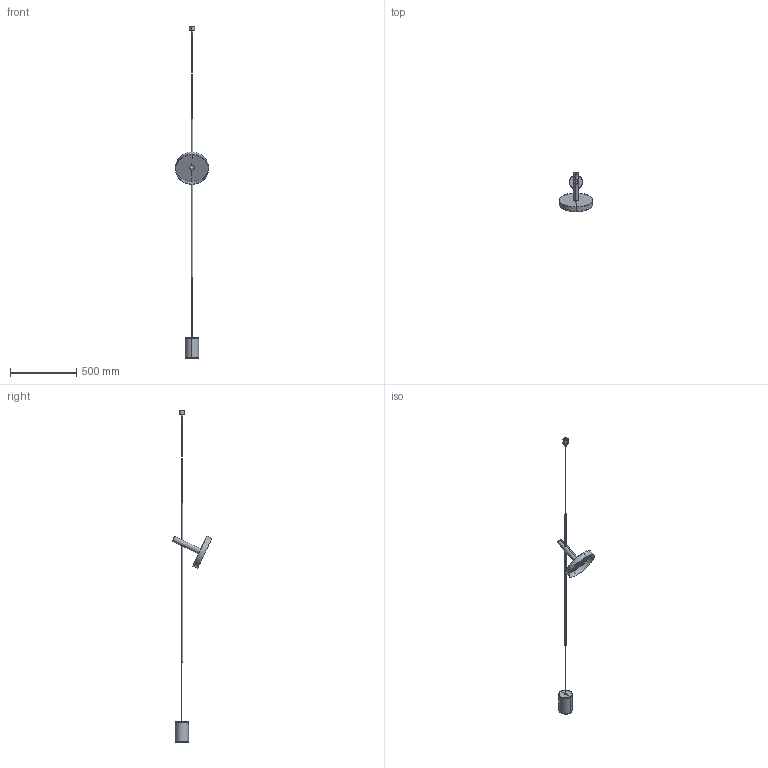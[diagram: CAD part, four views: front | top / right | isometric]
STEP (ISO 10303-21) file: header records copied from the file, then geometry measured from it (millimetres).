
FILE_DESCRIPTION(/* description */ (''),/* implementation_level */ '2;1');
FILE_NAME(/* name */ 'C:\Users\Franco Sartori E\Documents\FARO\DUPLICADO\Modelos\01_Digitalizados\0_WHIZZ\03_Publicación\20166_20163.stp',/* time_stamp */ '2020-10-02T13:39:39+02:00',/* author */ ('Franco Sartori E'),/* organization */ (''),/* preprocessor_version */ 'ST-DEVELOPER v18.1',/* originating_system */ 'AutoCAD Mechanical',/* authorisation */ '');
FILE_SCHEMA (('AUTOMOTIVE_DESIGN { 1 0 10303 214 3 1 1 }'));
Length unit declared in the file: millimetre
Products named in the file (5): Product; 20166_BASE - base-429917-_3D_; 20166_CENTRAL - WHIZZ-429103-_3D_; 20166_CEILING - CEILING SUPPORT-430691-_3D_; 20162 - 20163 WHIZZ Black and satin gold portable lamp-432196-_3D_
Assembly tree (4 placements, depth 2):
  Product
    20166_BASE - base-429917-_3D_
    20166_CENTRAL - WHIZZ-429103-_3D_
    20166_CEILING - CEILING SUPPORT-430691-_3D_
    20162 - 20163 WHIZZ Black and satin gold portable lamp-432196-_3D_
Bounding box: 250 x 296.92 x 2500 mm (x, y, z)
Volume: 332582.7 mm3; surface area: 594360.5 mm2
Topology: 9 solids, 10 shells, 164 faces, 359 edges, 196 vertices
Faces by surface type: cylinder 72, plane 62, torus 16, cone 8, bspline 6
Entity records: 6120 total; most frequent: CARTESIAN_POINT 2472, DIRECTION 773, ORIENTED_EDGE 712, EDGE_CURVE 358, AXIS2_PLACEMENT_3D 315, VERTEX_POINT 194, EDGE_LOOP 170, FACE_OUTER_BOUND 164
